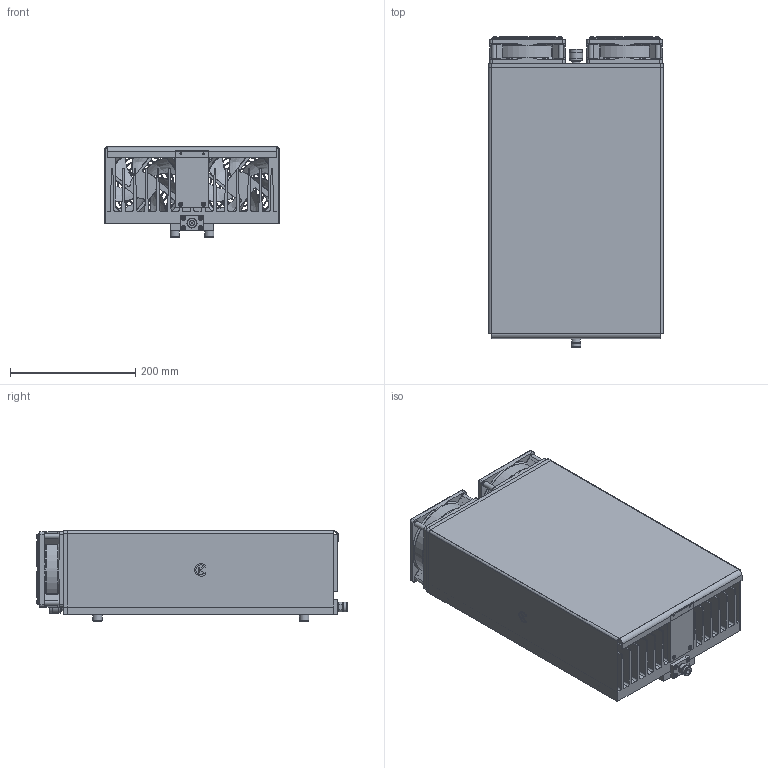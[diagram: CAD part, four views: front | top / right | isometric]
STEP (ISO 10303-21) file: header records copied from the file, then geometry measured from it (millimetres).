
FILE_DESCRIPTION(('STEP AP203'), '1');
FILE_NAME('栖闉罻 1500 鎗', '', ('UNSPECIFIED'), ('UNSPECIFIED'), 'C3D Converter', 'C3D Toolkit', '');
FILE_SCHEMA(('CONFIG_CONTROL_DESIGN'));
Length unit declared in the file: millimetre
Products named in the file (21): -01; Вентилятор 120x120x25; Вентилятор_винт 120х120х25; Вентилятор_основа 120х120х25
Assembly tree (57 placements, depth 3):
  (unnamed)
    (unnamed)
    (unnamed)
    (unnamed)
    (unnamed)
    (unnamed)
    (unnamed)
    -01
    (unnamed)
    Вентилятор 120x120x25  x2
      Вентилятор_винт 120х120х25
      Вентилятор_основа 120х120х25
    (unnamed)  x10
    -01  x6
    (unnamed)
    -01
    (unnamed)  x21
    (unnamed)  x2
    -01  x2
    (unnamed)
    -01
Bounding box: 278 x 495 x 144 mm (x, y, z)
Volume: 4932617.2 mm3; surface area: 1904018.3 mm2
Topology: 57 solids, 57 shells, 3037 faces, 8135 edges, 4956 vertices
Faces by surface type: plane 1181, bspline 816, cylinder 710, torus 190, cone 140
Full cylindrical faces by diameter (mm): 1.65 x1, 1.66 x1, 2.459 x25, 2.5 x3, 3 x22, 3.04 x2, 3.2 x2, 3.242 x8, 3.5 x8, 4.134 x16, 5 x16, 5.5 x57, 6 x1, 7 x12, 8 x1, 8.04 x1, 8.06 x1, 8.5 x20, 9 x1, 10 x17, 11.6 x2, 12.7 x1, 14 x2, 14.94 x1, 15 x4, 15.75 x1, 15.87 x1, 16 x4, 16.5 x1, 17.46 x1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
Entity records: 83229 total; most frequent: CARTESIAN_POINT 24861, ORIENTED_EDGE 9110, DIRECTION 8096, EDGE_CURVE 4555, AXIS2_PLACEMENT_3D 3094, VERTEX_POINT 3025, EDGE_LOOP 2394, FACE_BOUND 2097
